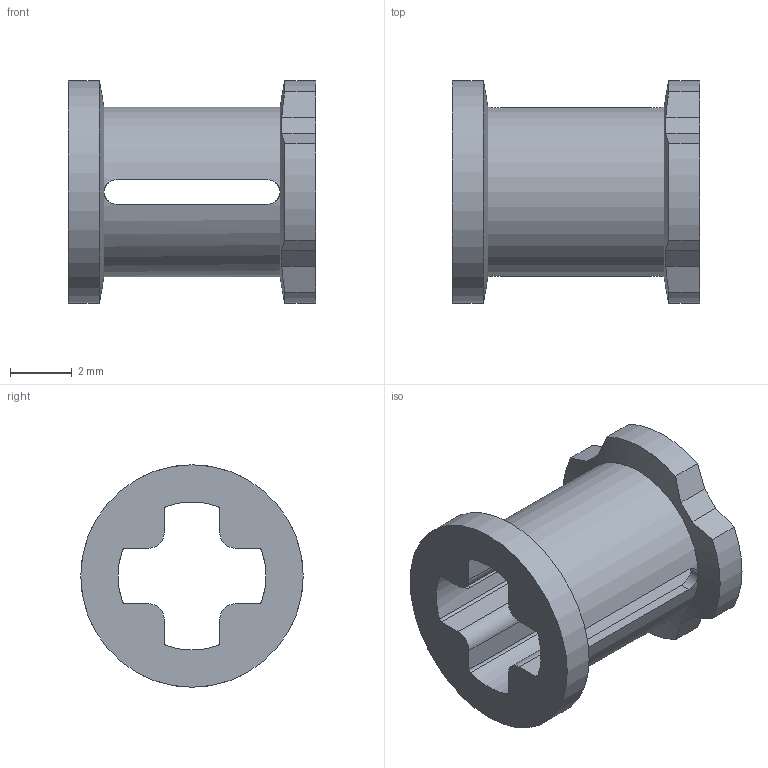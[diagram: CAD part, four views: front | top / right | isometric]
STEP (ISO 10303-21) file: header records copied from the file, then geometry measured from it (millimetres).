
FILE_DESCRIPTION(/* description */ ('Unknown'),/* implementation_level */ '2;1');
FILE_NAME(/* name */ 'Red_4227155_JCA',/* time_stamp */ '2025-07-22T00:03:06+02:00',/* author */ ('Unknown'),/* organization */ ('Unknown'),/* preprocessor_version */ 'ST-DEVELOPER v19.4',/* originating_system */ 'Solid Edge',/* authorisation */ 'Unknown');
FILE_SCHEMA (('AUTOMOTIVE_DESIGN {1 0 10303 214 3 1 1}'));
Length unit declared in the file: millimetre
Products named in the file (1): Red_4227155_JCA
Bounding box: 8 x 7.2 x 7.2 mm (x, y, z)
Volume: 109 mm3; surface area: 352.8 mm2
Topology: 1 solids, 1 shells, 55 faces, 159 edges, 104 vertices
Faces by surface type: cylinder 27, plane 26, cone 2
Full cylindrical faces by diameter (mm): 7.2 x1
Entity records: 1848 total; most frequent: CARTESIAN_POINT 388, ORIENTED_EDGE 308, DIRECTION 288, EDGE_CURVE 154, VERTEX_POINT 102, AXIS2_PLACEMENT_3D 102, LINE 84, VECTOR 84
